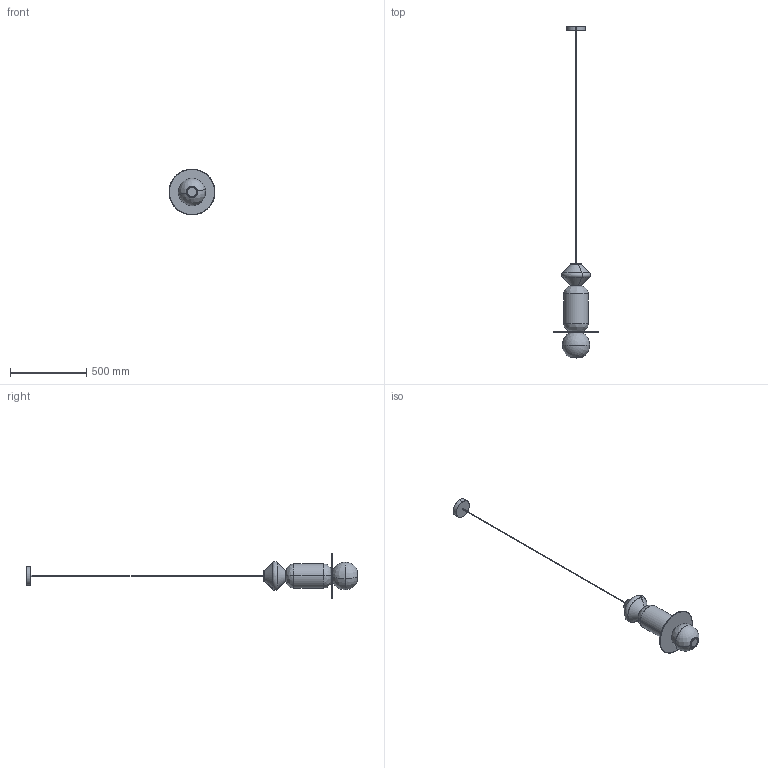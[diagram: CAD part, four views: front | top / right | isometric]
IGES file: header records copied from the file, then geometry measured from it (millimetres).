
Start section: SolidWorks IGES file using analytic representation for surfaces
Global section: file name: C:\Users\adrian\Desktop\MODELADOS USA\PAPI\PAPI_C1233.IGS; native system: SolidWorks 2023; preprocessor: SolidWorks 2023; author: adrian; date: 260608.170723; units: inch
Bounding box: 299.72 x 2171.97 x 299.72 mm (x, y, z)
Surface area: 941066.9 mm2 (no closed solid volume)
Topology: 0 solids, 0 shells, 376 faces, 8646 edges, 8644 vertices
Faces by surface type: revolution 263, bspline 113
